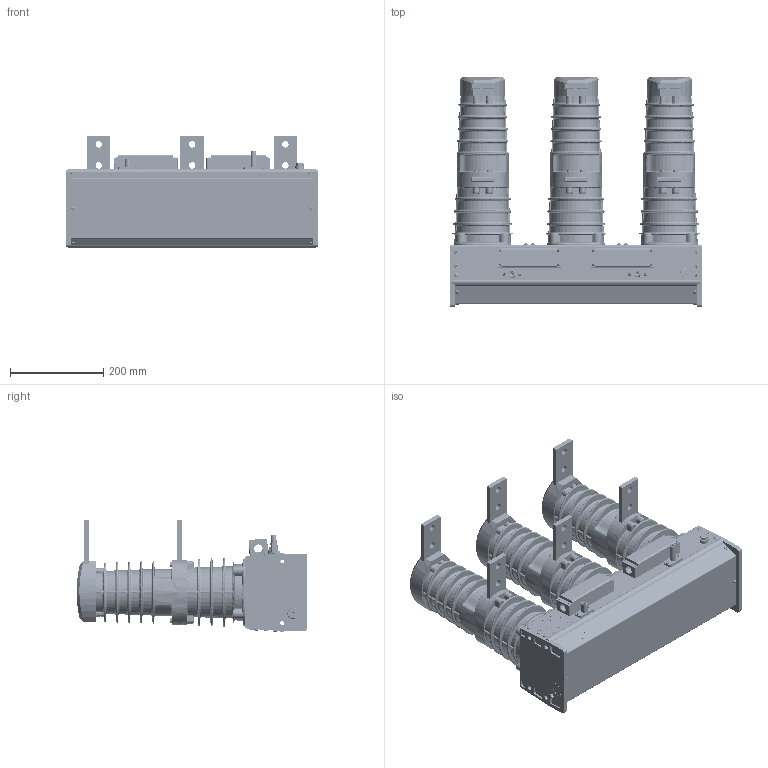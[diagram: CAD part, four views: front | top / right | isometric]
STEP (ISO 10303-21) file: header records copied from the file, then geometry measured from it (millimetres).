
FILE_DESCRIPTION (( 'STEP AP203' ), '1' );
FILE_NAME ('Optimat 舊-10_2.STEP', '2019-07-17T09:13:29', ( '' ), ( '' ), 'SwSTEP 2.0', 'SolidWorks 2018', '' );
FILE_SCHEMA (( 'CONFIG_CONTROL_DESIGN' ));
Length unit declared in the file: millimetre
Products named in the file (103): 6-6gx30_7805; Ïëàòà 674152.001.05.001^Ïëàòà 674152.001.05_Êîðïóñ_Optimat ÂÂ-10; 鎗鵻罻_膻緱樍螵膰艜魛蠉; Ýòèêåòêà èíäèêàöèÿ; Âòóëêà òîëêàòåëÿ ðó÷íîãî îòêëþ÷åíèÿ; 幄鍧; 妈眚 󉱮0^暑痫篑_Optimat 侣-10; Íàïðàâëÿþùàÿ âòóëêà; Ýêðàí; 妈眚 󊅙2^暑痫篑_Optimat 侣-10; 醫贂膻嶱膰艜魛瀖罻懤蹖; Óêàçàòåëü 674152.001.07.004^Âàë îòêëþ÷åíèÿ 674152.001.07_Êîðïóñ_Optimat ÂÂ-10; Øàéáà ïðóæèííàÿ ÃÎÑÒ6402 6_65_029_6402-70; Ðàçúåì prt19^Ïëàòà 674152.001.05_Êîðïóñ_Optimat ÂÂ-10; Íèæíèé êîíòàêò; Ýòèêåòêà ïîëîæåíèÿ âàëà; Òîëêàòåëü ðó÷íîãî îòêëþ÷åíèÿ; Îñü; Óïëîòíèòåëü 674152.001.018^Êîðïóñ_Optimat ÂÂ-10; 暑痫篑 尻蝠铎嚆龛蜞; Ñèëèêîíîâàÿ îáîëî÷êà; Íàïðàâëÿþùàÿ 674152.001.005^Êîðïóñ_Optimat ÂÂ-10; 侳緱鴇_膰艜魛瀖罻懤蹖; Âàë îòêëþ÷åíèÿ 674152.001.07^Êîðïóñ_Optimat ÂÂ-10; øàéáà A.6.37-11371; Ðàçúåì prt20^Ïëàòà 674152.001.05_Êîðïóñ_Optimat ÂÂ-10; Ýòèêåòêà_ïîëîæåíèÿ_âàëà; 扻豵鵨 674152.001.02.001^扻豵鵨 674152.001.02_扻豵鵨_Optimat 舊-10; Êîðïóñ^Optimat ÂÂ-10_„«ï £ ¡ à¨â­®£® ç¥àâ¥¦ ; ﾘ琺磊 ﾃﾎﾑﾒ 11371_丐ｩ｡ 4.10ｪｯ.019 ヮ葬 11371-78; 扻豵鵨 674152.001.007^扻豵鵨_Optimat 舊-10; ßêîðü; Âàêóóìíàÿ êàìåðà; Òîëêàòåëü ìåõ_áëîêèðîâêè^Êîðïóñ_Optimat ÂÂ-10; Êðûøêà_; Êðûøêà áîêîâàÿ 674152.001.004^Êîðïóñ_Optimat ÂÂ-10; 10x1-6gx35_(S16)_7805; Ïëàòà 674152.001.05^Êîðïóñ_Optimat ÂÂ-10; prt10^Ïîëþñ; Øèëüäèê OptiMat BB_1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
Assembly tree (223 placements, depth 4):
  Optimat 舊-10_2
    Êîðïóñ^Optimat ÂÂ-10_„«ï £ ¡ à¨â­®£® ç¥àâ¥¦ 
      扻豵鵨 674152.001.02^扻豵鵨_Optimat 舊-10
        扻豵鵨 674152.001.02.001^扻豵鵨 674152.001.02_扻豵鵨_Optimat 舊-10
        鎗鵻罻 674152.001.02.002^扻豵鵨 674152.001.02_扻豵鵨_Optimat 舊-10
      3.8 Âàë ñèíõðîíèçàöèè 674152.001.03^Êîðïóñ_Optimat ÂÂ-10
        3.8 Âàë ñèíõðîíèçàöèè  674152.001.03.001^3.8 Âàë ñèíõðîíèçàöèè 674152.001.03_Êîðïóñ_Optimat ÂÂ-10
        Âòóëêêà 674152.001.03.003^3.8 Âàë ñèíõðîíèçàöèè 674152.001.03_Êîðïóñ_Optimat ÂÂ-10  x2
      Ïëàòà 674152.001.05^Êîðïóñ_Optimat ÂÂ-10
        Ïëàòà 674152.001.05.001^Ïëàòà 674152.001.05_Êîðïóñ_Optimat ÂÂ-10
        Ðàçúåì prt19^Ïëàòà 674152.001.05_Êîðïóñ_Optimat ÂÂ-10  x14
        Ðàçúåì prt20^Ïëàòà 674152.001.05_Êîðïóñ_Optimat ÂÂ-10
      Ïëàòà 674152.001.06^Êîðïóñ_Optimat ÂÂ-10
        Ïëàòà 674152.001.06.001^Ïëàòà 674152.001.06_Êîðïóñ_Optimat ÂÂ-10
        Ðàçúåì prt19^Ïëàòà 674152.001.06_Êîðïóñ_Optimat ÂÂ-10  x14
        Ðàçúåì prt20^Ïëàòà 674152.001.06_Êîðïóñ_Optimat ÂÂ-10
      Âàë îòêëþ÷åíèÿ 674152.001.07^Êîðïóñ_Optimat ÂÂ-10
        Âàë îòêëþ÷åíèÿ^Âàë îòêëþ÷åíèÿ 674152.001.07_Êîðïóñ_Optimat ÂÂ-10
        Óêàçàòåëü 674152.001.07.004^Âàë îòêëþ÷åíèÿ 674152.001.07_Êîðïóñ_Optimat ÂÂ-10  x2
      Êðûøêà áîêîâàÿ 674152.001.004^Êîðïóñ_Optimat ÂÂ-10
      Êðûøêà áîêîâàÿ674152.001.004-2^Êîðïóñ_Optimat ÂÂ-10
      Ãàéêà çàêëàäíàÿ Ì10^Êîðïóñ_Optimat ÂÂ-10  x7
      ÐèÌ ÂÂ-10-prt29^Êîðïóñ_Optimat ÂÂ-10
      Øóðóï 4.2õ13^Êîðïóñ_Optimat ÂÂ-10  x18
      Îñíîâàíèå ðàçúåìà^Êîðïóñ_Optimat ÂÂ-10  x2
      妈眚 󊅙2^暑痫篑_Optimat 侣-10  x12
      Íàïðàâëÿþùàÿ 674152.001.005^Êîðïóñ_Optimat ÂÂ-10
      Òîëêàòåëü ìåõ_áëîêèðîâêè^Êîðïóñ_Optimat ÂÂ-10
      栴鍕趑扻豵鵨_Optimat 舊-10  x2
      Øóðóï 4,2õ16^Êîðïóñ_Optimat ÂÂ-10  x4
      Øóðóï 4.2õ9,5^Êîðïóñ_Optimat ÂÂ-10  x4
      欭殣玁獬扻豵鵨_Optimat 舊-10
      署赅 疣琥屐郶暑痫篑_Optimat 侣-10  x2
      妈眚 󉱮0^暑痫篑_Optimat 侣-10  x8
      Óïëîòíèòåëü 674152.001.018^Êîðïóñ_Optimat ÂÂ-10  x2
      扻豵鵨 674152.001.007^扻豵鵨_Optimat 舊-10
      Øàéáà 10 ÃÎÑÒ 11371^Êîðïóñ_Optimat ÂÂ-10  x2
      Áîëò Ì10õ20^Êîðïóñ_Optimat ÂÂ-10
      琼嚓 ^暑痫篑_Optimat 侣-10
      Çíàê çàçåìëåíèÿ^Êîðïóñ_Optimat ÂÂ-10
      諘蜱齁罻^扻豵鵨_Optimat 舊-10
      Âòóëêà òîëêàòåëÿ ðó÷íîãî îòêëþ÷åíèÿ
      Òîëêàòåëü ðó÷íîãî îòêëþ÷åíèÿ
    674152.001.002 Optimat 舊-10  x3
    Ïîëþñ  x3
      Êîðïóñ ïîëþñà íèç
        Êîðïóñ ïîëþñà íèç
        鎗鵻罻_  x8
      Íèæíèé êîíòàêò
        Ãèáêèé êîíòàêò
        鎗鵻罻_膻緱樍螵膰艜魛蠉
        Íèæíèé êîíòàêò
      prt10^Ïîëþñ
      prt11^Ïîëþñ
      扻豵鵨 瀁錌黟_瞂贂
        扻豵鵨 瀁錌黟_瞂贂
        Âòóëêà_âåðõíÿÿ  x4
      6-6gx30_7805
      Øàéáà ïðóæèííàÿ ÃÎÑÒ6402 6_65_029_6402-70
      øàéáà A.6.37-11371
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Bounding box: 540.4 x 494.7 x 240.32 mm (x, y, z)
Volume: 8813969.1 mm3; surface area: 3961777.9 mm2
Topology: 357 solids, 414 shells, 39182 faces, 104843 edges, 68073 vertices
Faces by surface type: plane 18210, cylinder 11652, bspline 6065, torus 1558, cone 1413, sphere 284
Entity records: 703452 total; most frequent: CARTESIAN_POINT 317646, ORIENTED_EDGE 91881, DIRECTION 54127, EDGE_CURVE 46051, VERTEX_POINT 30192, B_SPLINE_CURVE_WITH_KNOTS 26204, AXIS2_PLACEMENT_3D 20064, EDGE_LOOP 18309
